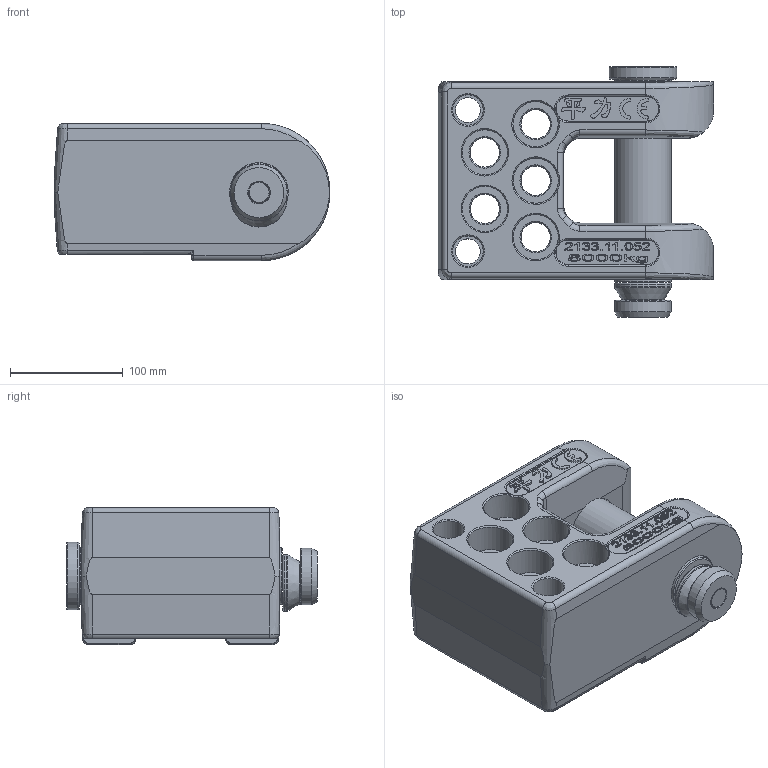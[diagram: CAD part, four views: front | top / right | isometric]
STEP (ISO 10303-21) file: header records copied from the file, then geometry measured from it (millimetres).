
FILE_DESCRIPTION(/* description */ (''),/* implementation_level */ '2;1');
FILE_NAME(/* name */ '2133.11.052.stp',/* time_stamp */ '2025-04-02T13:52:47+08:00',/* author */ (''),/* organization */ (''),/* preprocessor_version */ 'ST-DEVELOPER v16',/* originating_system */ 'SIEMENS PLM Software NX 10.0',/* authorisation */ '');
FILE_SCHEMA (('AP203_CONFIGURATION_CONTROLLED_3D_DESIGN_OF_MECHANICAL_PARTS_AND_ASSEMBLIES_MIM_LF { 1 0 10303 403 2 1 2}'));
Length unit declared in the file: millimetre
Products named in the file (1): Admi177C9AD32ih2
Bounding box: 243.5 x 222 x 121.52 mm (x, y, z)
Volume: 3332000.9 mm3; surface area: 299256.5 mm2
Topology: 4 solids, 4 shells, 1025 faces, 2661 edges, 1732 vertices
Faces by surface type: plane 440, extrusion 352, cylinder 106, bspline 70, cone 36, torus 21
Full cylindrical faces by diameter (mm): 20.1 x1, 22 x2, 26 x5, 27 x2, 32 x1, 40 x5, 50 x3, 52 x2, 60 x1
Entity records: 40551 total; most frequent: CARTESIAN_POINT 17905, ORIENTED_EDGE 5168, DIRECTION 3339, EDGE_CURVE 2584, VERTEX_POINT 1715, VECTOR 1493, B_SPLINE_CURVE_WITH_KNOTS 1476, EDGE_LOOP 1195
